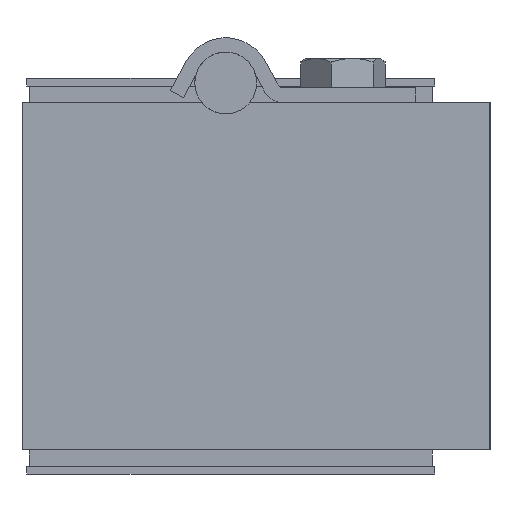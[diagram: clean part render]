
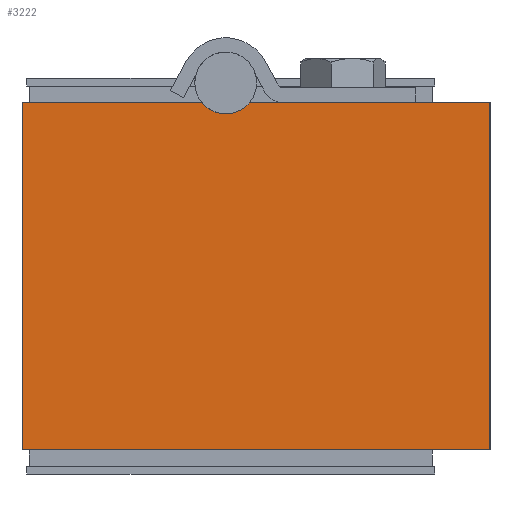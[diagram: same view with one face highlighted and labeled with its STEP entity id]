
A CAD part, left-side view. The second image highlights one B-rep face of the part: STEP entity #3222.
In plain terms, the highlighted planar face has unit normal (-1, 0, 0).
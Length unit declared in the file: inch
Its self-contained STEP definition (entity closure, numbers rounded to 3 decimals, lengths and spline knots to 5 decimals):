
#26 = VECTOR ( 'NONE', #3303, 39.37008 ) ;
#103 = LINE ( 'NONE', #4971, #1369 ) ;
#162 = LINE ( 'NONE', #2505, #26 ) ;
#354 = VERTEX_POINT ( 'NONE', #2978 ) ;
#381 = CARTESIAN_POINT ( 'NONE',  ( 0., 0., 0.72 ) ) ;
#540 = CIRCLE ( 'NONE', #1088, 0.128 ) ;
#559 = CARTESIAN_POINT ( 'NONE',  ( 0., 0.99648, 0.72 ) ) ;
#651 = DIRECTION ( 'NONE',  ( 1., 0., 0. ) ) ;
#778 = EDGE_CURVE ( 'NONE', #926, #1141, #540, .T. ) ;
#915 = LINE ( 'NONE', #1017, #3018 ) ;
#926 = VERTEX_POINT ( 'NONE', #559 ) ;
#954 = EDGE_CURVE ( 'NONE', #1961, #1141, #162, .T. ) ;
#972 = CARTESIAN_POINT ( 'NONE',  ( 0., 0., 0.72 ) ) ;
#1003 = ORIENTED_EDGE ( 'NONE', *, *, #3792, .T. ) ;
#1017 = CARTESIAN_POINT ( 'NONE',  ( 0., 0., 0.72 ) ) ;
#1088 = AXIS2_PLACEMENT_3D ( 'NONE', #1806, #1388, #1739 ) ;
#1141 = VERTEX_POINT ( 'NONE', #5050 ) ;
#1225 = LINE ( 'NONE', #381, #1289 ) ;
#1289 = VECTOR ( 'NONE', #2063, 39.37008 ) ;
#1369 = VECTOR ( 'NONE', #2399, 39.37008 ) ;
#1388 = DIRECTION ( 'NONE',  ( 1., 0., 0. ) ) ;
#1442 = EDGE_LOOP ( 'NONE', ( #1955, #2970, #2997, #5048, #1003, #4297 ) ) ;
#1627 = LINE ( 'NONE', #3911, #2713 ) ;
#1739 = DIRECTION ( 'NONE',  ( 0., 0., -1. ) ) ;
#1806 = CARTESIAN_POINT ( 'NONE',  ( 0., 1.09559, 0.801 ) ) ;
#1826 = EDGE_CURVE ( 'NONE', #1961, #2306, #1627, .T. ) ;
#1887 = FACE_OUTER_BOUND ( 'NONE', #1442, .T. ) ;
#1955 = ORIENTED_EDGE ( 'NONE', *, *, #2722, .F. ) ;
#1961 = VERTEX_POINT ( 'NONE', #3607 ) ;
#2063 = DIRECTION ( 'NONE',  ( 0., 0., -1. ) ) ;
#2306 = VERTEX_POINT ( 'NONE', #4438 ) ;
#2360 = CARTESIAN_POINT ( 'NONE',  ( 0., 0., 0.72 ) ) ;
#2399 = DIRECTION ( 'NONE',  ( 0., -1., 0. ) ) ;
#2505 = CARTESIAN_POINT ( 'NONE',  ( 0., 0., 0.72 ) ) ;
#2713 = VECTOR ( 'NONE', #3895, 39.37008 ) ;
#2722 = EDGE_CURVE ( 'NONE', #926, #3632, #915, .T. ) ;
#2859 = EDGE_CURVE ( 'NONE', #3632, #354, #1225, .T. ) ;
#2970 = ORIENTED_EDGE ( 'NONE', *, *, #778, .T. ) ;
#2978 = CARTESIAN_POINT ( 'NONE',  ( 0., 0., -0.72 ) ) ;
#2997 = ORIENTED_EDGE ( 'NONE', *, *, #954, .F. ) ;
#3018 = VECTOR ( 'NONE', #3393, 39.37008 ) ;
#3221 = DIRECTION ( 'NONE',  ( 0., 0., -1. ) ) ;
#3222 = ADVANCED_FACE ( 'NONE', ( #1887 ), #4723, .F. ) ;
#3303 = DIRECTION ( 'NONE',  ( 0., -1., 0. ) ) ;
#3393 = DIRECTION ( 'NONE',  ( 0., -1., 0. ) ) ;
#3607 = CARTESIAN_POINT ( 'NONE',  ( 0., 1.94, 0.72 ) ) ;
#3632 = VERTEX_POINT ( 'NONE', #2360 ) ;
#3792 = EDGE_CURVE ( 'NONE', #2306, #354, #103, .T. ) ;
#3877 = AXIS2_PLACEMENT_3D ( 'NONE', #972, #651, #3221 ) ;
#3895 = DIRECTION ( 'NONE',  ( 0., 0., -1. ) ) ;
#3911 = CARTESIAN_POINT ( 'NONE',  ( 0., 1.94, 0.72 ) ) ;
#4297 = ORIENTED_EDGE ( 'NONE', *, *, #2859, .F. ) ;
#4438 = CARTESIAN_POINT ( 'NONE',  ( 0., 1.94, -0.72 ) ) ;
#4723 = PLANE ( 'NONE',  #3877 ) ;
#4971 = CARTESIAN_POINT ( 'NONE',  ( 0., 0., -0.72 ) ) ;
#5048 = ORIENTED_EDGE ( 'NONE', *, *, #1826, .T. ) ;
#5050 = CARTESIAN_POINT ( 'NONE',  ( 0., 1.1947, 0.72 ) ) ;
